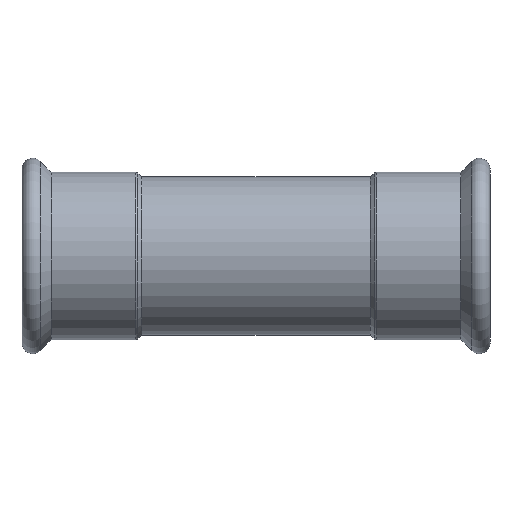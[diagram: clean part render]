
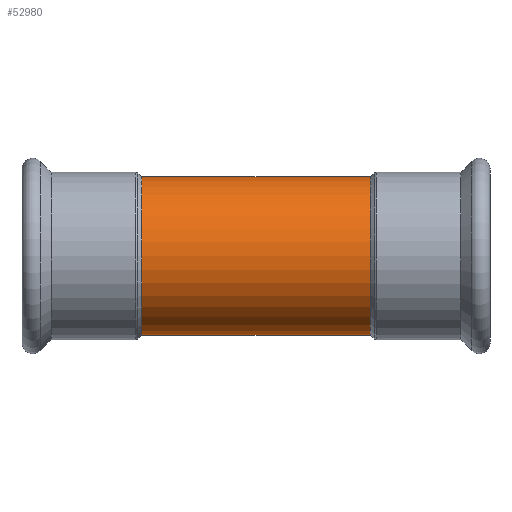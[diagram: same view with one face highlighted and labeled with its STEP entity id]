
A CAD part, top view. The second image highlights one B-rep face of the part: STEP entity #52980.
In plain terms, the highlighted cylindrical face has radius 44.45 mm (diameter 88.9 mm), a partial arc.
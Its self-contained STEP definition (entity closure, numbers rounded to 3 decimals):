
#12740=CARTESIAN_POINT('',(-224.511,139.522,
0.));
#12750=DIRECTION('',(1.,0.,0.));
#12760=DIRECTION('',(0.,0.,1.));
#12770=AXIS2_PLACEMENT_3D('',#12740,#12750,#12760);
#12780=CYLINDRICAL_SURFACE('',#12770,44.45);
#20060=CARTESIAN_POINT('',(-224.511,139.522,-44.45));
#20070=DIRECTION('',(1.,0.,0.));
#20080=VECTOR('',#20070,1.);
#20090=LINE('',#20060,#20080);
#20100=CARTESIAN_POINT('',(-352.511,139.522,-44.45));
#20110=VERTEX_POINT('',#20100);
#20120=CARTESIAN_POINT('',(-224.511,139.522,-44.45));
#20130=VERTEX_POINT('',#20120);
#20140=EDGE_CURVE('',#20110,#20130,#20090,.T.);
#20160=CARTESIAN_POINT('',(-224.511,139.522,
0.));
#20170=DIRECTION('',(1.,0.,0.));
#20180=DIRECTION('',(0.,0.,-1.));
#20190=AXIS2_PLACEMENT_3D('',#20160,#20170,#20180);
#20200=CIRCLE('',#20190,44.45);
#20210=CARTESIAN_POINT('',(-224.511,139.522,44.45));
#20220=VERTEX_POINT('',#20210);
#20250=CARTESIAN_POINT('',(-224.511,139.522,44.45));
#20260=DIRECTION('',(1.,0.,0.));
#20270=VECTOR('',#20260,1.);
#20280=LINE('',#20250,#20270);
#20290=CARTESIAN_POINT('',(-352.511,139.522,44.45));
#20300=VERTEX_POINT('',#20290);
#20310=EDGE_CURVE('',#20300,#20220,#20280,.T.);
#20330=CARTESIAN_POINT('',(-352.511,139.522,
0.));
#20340=DIRECTION('',(1.,0.,0.));
#20350=DIRECTION('',(0.,0.,1.));
#20360=AXIS2_PLACEMENT_3D('',#20330,#20340,#20350);
#20370=CIRCLE('',#20360,44.45);
#52900=EDGE_CURVE('',#20300,#20110,#20370,.T.);
#52910=ORIENTED_EDGE('',*,*,#52900,.T.);
#52920=ORIENTED_EDGE('',*,*,#20310,.F.);
#52930=EDGE_CURVE('',#20220,#20130,#20200,.T.);
#52940=ORIENTED_EDGE('',*,*,#52930,.F.);
#52950=ORIENTED_EDGE('',*,*,#20140,.T.);
#52960=EDGE_LOOP('',(#52950,#52940,#52920,#52910));
#52970=FACE_OUTER_BOUND('',#52960,.T.);
#52980=ADVANCED_FACE('',(#52970),#12780,.T.);
